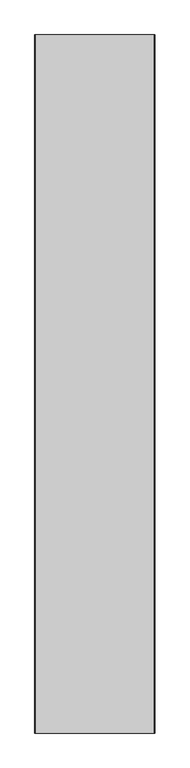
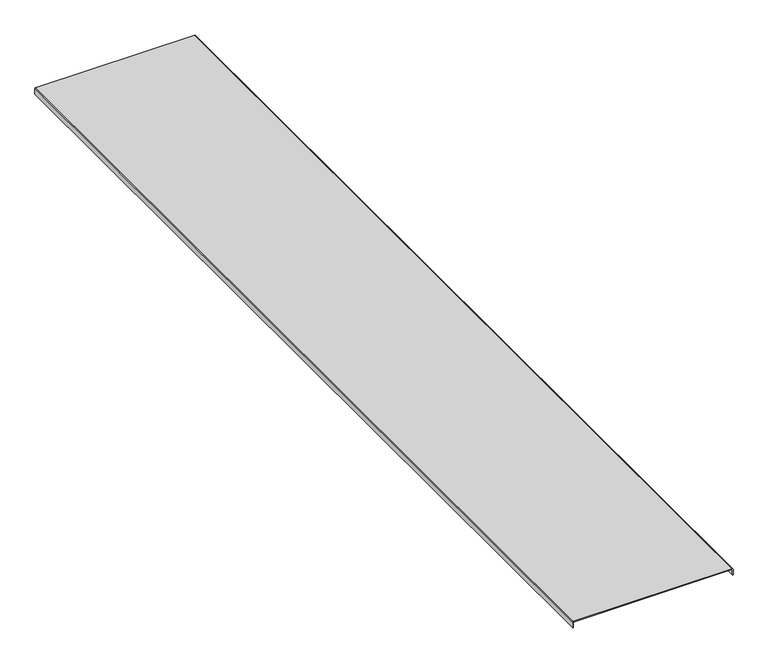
"""IFC4 building model written with IfcOpenShell, lengths in millimetres: proxy geometry, Cable_Ladder_Cover_TBSLR-_Basortrav : Basortrav TBSLR 300 3M."""

import ifcopenshell
import ifcopenshell.guid

model = None  # the IFC model being written
_history = None  # IfcOwnerHistory: only IFC2X3 demands one
_inside = {}  # id of a spatial element -> (the spatial element, [elements in it])
_under = {}  # id of a project, library or spatial element -> (it, [spatial elements below it])
_declared = {}  # id of a project -> (the project, [libraries it declares])
_typed = {}  # id of a type object -> (the type object, [elements of that type])
_made_of = {}  # id of a material, layer set ... -> (it, [elements and type objects made of it])


def new_model(schema):
    """Start an empty IFC model of exactly this schema.

    Asked for "IFC4X3", IfcOpenShell would pick the latest addendum, in which some entities
    have other attributes; the version numbers below select the first issue.
    IFC2X3 requires an IfcOwnerHistory on every rooted entity: one is made here for all.
    """
    global model, _history
    if schema == "IFC4X3":
        model = ifcopenshell.file(schema_version=(4, 3, 0, 0))
    else:
        model = ifcopenshell.file(schema=schema)
    _inside.clear()
    _under.clear()
    _declared.clear()
    _typed.clear()
    _made_of.clear()
    _history = None
    if model.schema == "IFC2X3":
        org = make("IfcOrganization", Name="unknown")
        user = make(
            "IfcPersonAndOrganization",
            ThePerson=make("IfcPerson", FamilyName="unknown"),
            TheOrganization=org,
        )
        app = make(
            "IfcApplication",
            ApplicationDeveloper=org,
            Version="unknown",
            ApplicationFullName="unknown",
            ApplicationIdentifier="unknown",
        )
        _history = make(
            "IfcOwnerHistory",
            OwningUser=user,
            OwningApplication=app,
            ChangeAction="ADDED",
            CreationDate=0,
        )
    return model


def make(cls, **values):
    """One entity of the class cls with the attributes given. An attribute that is None is left unset."""
    return model.create_entity(
        cls, **{name: value for name, value in values.items() if value is not None}
    )


def rooted(cls, **values):
    """An entity with a GlobalId (a new one), such as an element, a storey or a relation."""
    return make(cls, GlobalId=ifcopenshell.guid.new(), OwnerHistory=_history, **values)


def si_unit(unit_type, name, prefix=None):
    """IfcSIUnit, for example si_unit("LENGTHUNIT", "METRE", prefix="MILLI")."""
    return make("IfcSIUnit", UnitType=unit_type, Prefix=prefix, Name=name)


def assignment(units):
    """IfcUnitAssignment: the units of a project."""
    return None if units is None else make("IfcUnitAssignment", Units=units)


def point(xyz):
    """IfcCartesianPoint."""
    return None if xyz is None else make("IfcCartesianPoint", Coordinates=xyz)


def direction(xyz):
    """IfcDirection."""
    return None if xyz is None else make("IfcDirection", DirectionRatios=xyz)


def frame(location, z_axis=None, x_axis=None):
    """IfcAxis2Placement3D, a coordinate frame: its origin and axes. An axis left out is left unset."""
    return make(
        "IfcAxis2Placement3D",
        Location=point(location),
        Axis=direction(z_axis),
        RefDirection=direction(x_axis),
    )


def frame_2d(location, x_axis=None):
    """IfcAxis2Placement2D, a coordinate frame in the plane: its origin and x axis."""
    return make(
        "IfcAxis2Placement2D", Location=point(location), RefDirection=direction(x_axis)
    )


def origin():
    """The frame at (0, 0, 0) with its axes left unset."""
    return frame((0.0, 0.0, 0.0))


def place(relative_to, where):
    """IfcLocalPlacement: puts the frame where relative to a parent placement (None: the world)."""
    return make(
        "IfcLocalPlacement", PlacementRelTo=relative_to, RelativePlacement=where
    )


def context(
    kind, dimensions, precision=None, world=None, true_north=None, identifier=None
):
    """IfcGeometricRepresentationContext, for example the 3D "Model" context."""
    return make(
        "IfcGeometricRepresentationContext",
        ContextIdentifier=identifier,
        ContextType=kind,
        CoordinateSpaceDimension=dimensions,
        Precision=precision,
        WorldCoordinateSystem=world,
        TrueNorth=true_north,
    )


def project(units=None, contexts=None):
    """IfcProject with its units and contexts."""
    return rooted(
        "IfcProject",
        Name="project",
        RepresentationContexts=contexts,
        UnitsInContext=assignment(units),
    )


def spatial(cls, under=None, at=None, **own):
    """A site, building, storey or space (cls), placed at a placement, below another one or the project."""
    s = rooted(cls, ObjectPlacement=at, **own)
    if under is not None:
        _under.setdefault(under.id(), (under, []))[1].append(s)
    return s


def polyline(points):
    """IfcPolyline through the points."""
    return make("IfcPolyline", Points=[point(p) for p in points])


def circle_curve(where, radius):
    """IfcCircle in the frame where."""
    return make("IfcCircle", Position=where, Radius=radius)


def trimmed(basis, trim1, trim2, sense, master):
    """IfcTrimmedCurve: the piece of a basis curve between two trims."""
    return make(
        "IfcTrimmedCurve",
        BasisCurve=basis,
        Trim1=trim1,
        Trim2=trim2,
        SenseAgreement=sense,
        MasterRepresentation=master,
    )


def segment(curve, same_sense, transition):
    """IfcCompositeCurveSegment."""
    return make(
        "IfcCompositeCurveSegment",
        Transition=transition,
        SameSense=same_sense,
        ParentCurve=curve,
    )


def composite_curve(segments, self_intersect=None):
    """IfcCompositeCurve: segments joined end to end."""
    return make("IfcCompositeCurve", Segments=segments, SelfIntersect=self_intersect)


def outline(outer, holes=None, kind="AREA"):
    """IfcArbitraryClosedProfileDef: a profile drawn as a closed curve; with holes, ...WithVoids."""
    if holes is None:
        return make("IfcArbitraryClosedProfileDef", ProfileType=kind, OuterCurve=outer)
    return make(
        "IfcArbitraryProfileDefWithVoids",
        ProfileType=kind,
        OuterCurve=outer,
        InnerCurves=holes,
    )


def extrude(swept, where, along, depth):
    """IfcExtrudedAreaSolid: the profile swept, set in the frame where, extruded along a direction by depth."""
    return make(
        "IfcExtrudedAreaSolid",
        SweptArea=swept,
        Position=where,
        ExtrudedDirection=direction(along),
        Depth=depth,
    )


def shape(context_of_items, identifier, shape_type, items):
    """IfcShapeRepresentation: the items that make up one representation, for example the "Body"."""
    return make(
        "IfcShapeRepresentation",
        ContextOfItems=context_of_items,
        RepresentationIdentifier=identifier,
        RepresentationType=shape_type,
        Items=items,
    )


def source(mapping_origin, context_of_items, identifier, shape_type, items):
    """IfcRepresentationMap: a shape defined once, which mapped items show again and again."""
    return make(
        "IfcRepresentationMap",
        MappingOrigin=mapping_origin,
        MappedRepresentation=shape(context_of_items, identifier, shape_type, items),
    )


def transform(
    local_origin,
    x_axis=None,
    y_axis=None,
    z_axis=None,
    scale=None,
    scale2=None,
    scale3=None,
    uniform=True,
):
    """IfcCartesianTransformationOperator3D, or its non-uniform kind. x_axis, y_axis, z_axis: its Axis1, 2, 3."""
    if uniform:
        return make(
            "IfcCartesianTransformationOperator3D",
            Axis1=direction(x_axis),
            Axis2=direction(y_axis),
            LocalOrigin=point(local_origin),
            Scale=scale,
            Axis3=direction(z_axis),
        )
    return make(
        "IfcCartesianTransformationOperator3DnonUniform",
        Axis1=direction(x_axis),
        Axis2=direction(y_axis),
        LocalOrigin=point(local_origin),
        Scale=scale,
        Axis3=direction(z_axis),
        Scale2=scale2,
        Scale3=scale3,
    )


def mapped(mapping_source, mapping_target):
    """IfcMappedItem: shows the shape of a source again, moved by a transform."""
    return make(
        "IfcMappedItem", MappingSource=mapping_source, MappingTarget=mapping_target
    )


def made_of(thing, what):
    """Note that an element or type object is made of a material, layer set ...; save() writes the relation."""
    if what is not None:
        _made_of.setdefault(what.id(), (what, []))[1].append(thing)
    return thing


def element(
    cls,
    number,
    at=None,
    inside=None,
    cuts=None,
    type_object=None,
    material=None,
    context=None,
    identifier="Body",
    shape_type=None,
    held_by="IfcProductDefinitionShape",
    body=None,
    shapes=None,
    **own,
):
    """One element of the class cls, such as IfcWall. Its Tag is "e" and its number.

    at: its placement. inside: the storey or other place that contains it. cuts: it is an
    opening in that element (IfcRelVoidsElement). A single representation is given by context,
    identifier, shape_type and body (its items); several are given by shapes. held_by: the class
    of the entity that holds the representations. save() writes the other relations.
    """
    e = rooted(cls, Tag="e%d" % number, ObjectPlacement=at, **own)
    if body is not None:
        shapes = [shape(context, identifier, shape_type, body)]
    if shapes is not None:
        e.Representation = make(held_by, Representations=shapes)
    if inside is not None:
        _inside.setdefault(inside.id(), (inside, []))[1].append(e)
    if cuts is not None:
        rooted(
            "IfcRelVoidsElement", RelatingBuildingElement=cuts, RelatedOpeningElement=e
        )
    if type_object is not None:
        _typed.setdefault(type_object.id(), (type_object, []))[1].append(e)
    return made_of(e, material)


def aggregate(whole, parts):
    """IfcRelAggregates: a whole, such as a stair, and the parts it consists of."""
    return rooted("IfcRelAggregates", RelatingObject=whole, RelatedObjects=parts)


def save(model, path):
    """Write the relations noted so far, then the file.

    IfcRelAggregates (storeys below a building ...), IfcRelContainedInSpatialStructure (elements
    in a storey), IfcRelDefinesByType, IfcRelAssociatesMaterial and IfcRelDeclares: one each for
    every whole, place, type object, material and project.
    """
    for whole, parts in _under.values():
        aggregate(whole, parts)
    for where, things in _inside.values():
        rooted(
            "IfcRelContainedInSpatialStructure",
            RelatedElements=things,
            RelatingStructure=where,
        )
    for kind, things in _typed.values():
        rooted("IfcRelDefinesByType", RelatedObjects=things, RelatingType=kind)
    for what, things in _made_of.values():
        rooted("IfcRelAssociatesMaterial", RelatedObjects=things, RelatingMaterial=what)
    for by, libraries in _declared.values():
        rooted("IfcRelDeclares", RelatingContext=by, RelatedDefinitions=libraries)
    model.write(path)


def generic_models_d717d20d(model_context):
    return source(origin(), model_context, "Body", "SweptSolid", [
        extrude(outline(composite_curve([segment(trimmed(circle_curve(frame_2d((-0.5, -185.5)), 0.5), [point((-0.5, -186.0))], [point((0.0, -185.5))], True, "CARTESIAN"), True, "CONTINUOUS"), segment(polyline([(0.0, -185.5), (0.0, 185.5)]), True, "CONTINUOUS"), segment(trimmed(circle_curve(frame_2d((-0.5, 185.5)), 0.5), [point((0.0, 185.5))], [point((-0.5, 186.0))], True, "CARTESIAN"), True, "CONTINUOUS"), segment(polyline([(-0.5, 186.0), (-13.5, 186.0), (-13.5, 187.5), (-0.5, 187.5)]), True, "CONTINUOUS"), segment(trimmed(circle_curve(frame_2d((-0.5, 185.5)), 2.0), [point((-0.5, 187.5))], [point((1.5, 185.5))], False, "CARTESIAN"), True, "CONTINUOUS"), segment(polyline([(1.5, 185.5), (1.5, -185.5)]), True, "CONTINUOUS"), segment(trimmed(circle_curve(frame_2d((-0.5, -185.5)), 2.0), [point((1.5, -185.5))], [point((-0.5, -187.5))], False, "CARTESIAN"), True, "CONTINUOUS"), segment(polyline([(-0.5, -187.5), (-13.5, -187.5), (-13.5, -186.0), (-0.5, -186.0)]), True, "CONTINUOUS")], self_intersect=False)), frame((0.0, 0.0, 0.0), z_axis=(0.0, 1.0, 0.0), x_axis=(0.0, 0.0, 1.0)), (0.0, 0.0, 1.0), 2175.0),
    ])


if __name__ == "__main__":
    model = new_model("IFC4")
    model_context = context("Model", 3, world=origin())
    ifc_project = project(units=[si_unit("LENGTHUNIT", "METRE", prefix="MILLI")], contexts=[model_context])
    site = spatial("IfcSite", under=ifc_project)
    building = spatial("IfcBuilding", under=site)
    placement = place(None, origin())
    generic_models_shape = generic_models_d717d20d(model_context)
    element("IfcBuildingElementProxy", 1, Name="Cable_Ladder_Cover_TBSLR-_Basortrav : Basortrav TBSLR 300 3M", ObjectType="Cable_Ladder_Cover_TBSLR-_Basortrav : Basortrav TBSLR 300 3M", at=placement, inside=building, context=model_context, shape_type="MappedRepresentation", body=[
        mapped(generic_models_shape, transform((0.0, 0.0, 0.0), x_axis=(1.0, 0.0, 0.0), y_axis=(0.0, 1.0, 0.0), z_axis=(0.0, 0.0, 1.0))),
    ])
    save(model, "model.ifc")
